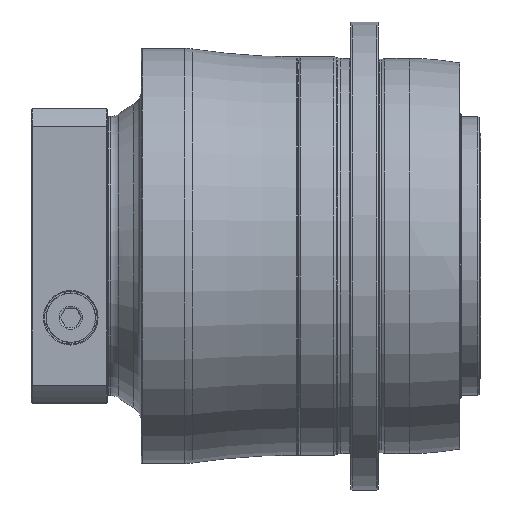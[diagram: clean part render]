
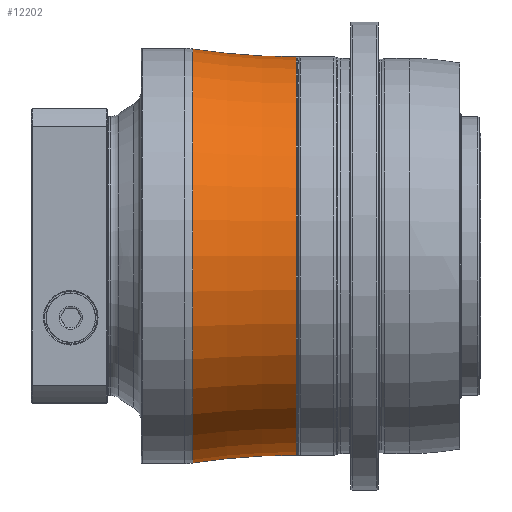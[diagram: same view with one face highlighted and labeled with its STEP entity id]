
A CAD part, top view. The second image highlights one B-rep face of the part: STEP entity #12202.
In plain terms, the highlighted toroidal (fillet/blend) face has major radius 570.364 mm and minor radius 441.864 mm.
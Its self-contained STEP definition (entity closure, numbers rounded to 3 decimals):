
#11668=CARTESIAN_POINT('',(-55.084,0.,0.));
#11669=DIRECTION('',(1.,0.,0.));
#11670=DIRECTION('',(0.,1.,0.));
#11671=AXIS2_PLACEMENT_3D('',#11668,#11669,#11670);
#11673=CARTESIAN_POINT('',(-122.,0.,0.));
#11674=DIRECTION('',(1.,0.,0.));
#11675=DIRECTION('',(0.,1.,0.));
#11676=AXIS2_PLACEMENT_3D('',#11673,#11674,#11675);
#11731=CARTESIAN_POINT('',(-122.,570.364,0.));
#11732=DIRECTION('',(0.,0.,1.));
#11733=DIRECTION('',(0.,-1.,0.));
#11734=AXIS2_PLACEMENT_3D('',#11731,#11732,#11733);
#11741=CARTESIAN_POINT('',(-122.,-570.364,0.));
#11742=DIRECTION('',(0.,0.,-1.));
#11743=DIRECTION('',(0.,1.,0.));
#11744=AXIS2_PLACEMENT_3D('',#11741,#11742,#11743);
#11886=CARTESIAN_POINT('',(-122.,128.5,0.));
#11887=VERTEX_POINT('',#11886);
#11888=CARTESIAN_POINT('',(-122.,-128.5,0.));
#11889=VERTEX_POINT('',#11888);
#11934=CARTESIAN_POINT('',(-55.084,133.596,
0.));
#11935=CARTESIAN_POINT('',(-55.084,-133.596,0.));
#11936=VERTEX_POINT('',#11934);
#11937=VERTEX_POINT('',#11935);
#12188=CARTESIAN_POINT('',(-122.,0.,0.));
#12189=DIRECTION('',(1.,0.,0.));
#12190=DIRECTION('',(0.,-1.,0.));
#12191=AXIS2_PLACEMENT_3D('',#12188,#12189,#12190);
#12192=TOROIDAL_SURFACE('',#12191,570.364,441.864);
#12194=ORIENTED_EDGE('',*,*,#12193,.T.);
#12196=ORIENTED_EDGE('',*,*,#12195,.F.);
#12197=ORIENTED_EDGE('',*,*,#12182,.F.);
#12199=ORIENTED_EDGE('',*,*,#12198,.T.);
#12200=EDGE_LOOP('',(#12194,#12196,#12197,#12199));
#12201=FACE_OUTER_BOUND('',#12200,.F.);
#12202=ADVANCED_FACE('',(#12201),#12192,.F.);
#11672=CIRCLE('',#11671,133.596);
#11677=CIRCLE('',#11676,128.5);
#11735=CIRCLE('',#11734,441.864);
#11745=CIRCLE('',#11744,441.864);
#12182=EDGE_CURVE('',#11887,#11889,#11677,.T.);
#12193=EDGE_CURVE('',#11936,#11937,#11672,.T.);
#12195=EDGE_CURVE('',#11889,#11937,#11745,.T.);
#12198=EDGE_CURVE('',#11887,#11936,#11735,.T.);
